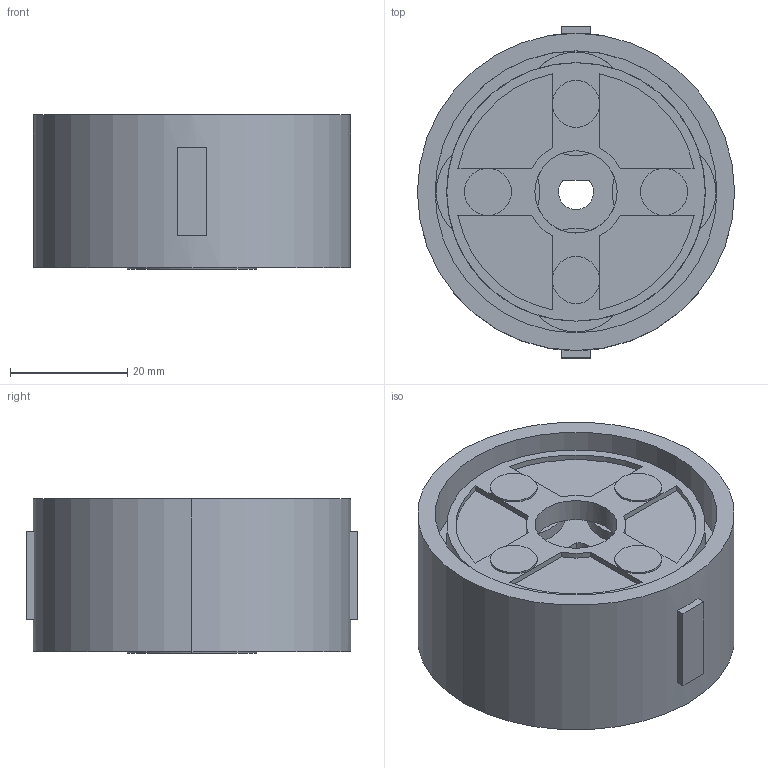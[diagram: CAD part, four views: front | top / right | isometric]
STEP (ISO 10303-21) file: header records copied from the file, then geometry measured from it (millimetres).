
FILE_DESCRIPTION (( 'STEP AP203' ), '1' );
FILE_NAME ('LGU54-4PAD.step', '2021-07-23T02:24:08', ( '' ), ( '' ), 'SwSTEP 2.0', 'SolidWorks 2021', '' );
FILE_SCHEMA (( 'CONFIG_CONTROL_DESIGN' ));
Length unit declared in the file: millimetre
Products named in the file (1): LGU54-4PAD
Bounding box: 54 x 56.5 x 26.25 mm (x, y, z)
Volume: 44175.2 mm3; surface area: 17827.9 mm2
Topology: 1 solids, 1 shells, 290 faces, 805 edges, 526 vertices
Faces by surface type: cylinder 220, plane 68, cone 2
Entity records: 9642 total; most frequent: DIRECTION 1867, CARTESIAN_POINT 1646, ORIENTED_EDGE 1610, EDGE_CURVE 805, AXIS2_PLACEMENT_3D 779, VERTEX_POINT 526, CIRCLE 488, EDGE_LOOP 317
